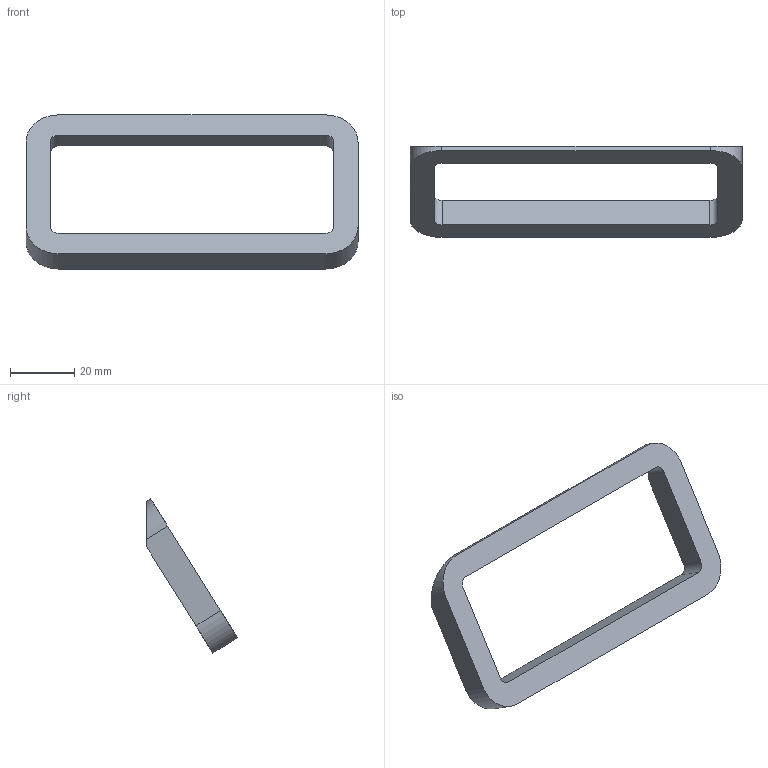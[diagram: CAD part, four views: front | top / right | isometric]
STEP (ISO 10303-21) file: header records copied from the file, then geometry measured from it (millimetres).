
FILE_DESCRIPTION( ( 'STEP AP214' ), '1' );
FILE_NAME( 'C:/Users/swati/Desktop/buena/9207446/9207446.stp', ' ', ( ' ' ), ( ' ' ), 'PSStep 15.0.47', 'PARTsolutions', ' ' );
FILE_SCHEMA( ( 'AUTOMOTIVE_DESIGN { 1 0 10303 214 1 1 1 1 }' ) );
Length unit declared in the file: millimetre
Products named in the file (2): 95 ; _
Assembly tree (1 placements, depth 2):
  95 
    _
Bounding box: 103.5 x 28.3 x 48.02 mm (x, y, z)
Volume: 14090.9 mm3; surface area: 8125 mm2
Topology: 1 solids, 1 shells, 23 faces, 60 edges, 40 vertices
Faces by surface type: plane 13, cylinder 10
Full cylindrical faces by diameter (mm): 4 x2
Entity records: 930 total; most frequent: DIRECTION 128, CARTESIAN_POINT 123, ORIENTED_EDGE 116, EDGE_CURVE 58, AXIS2_PLACEMENT_3D 45, VERTEX_POINT 40, LINE 38, VECTOR 38
